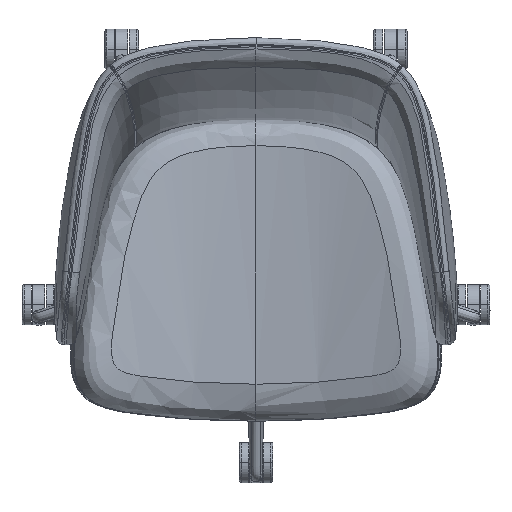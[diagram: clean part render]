
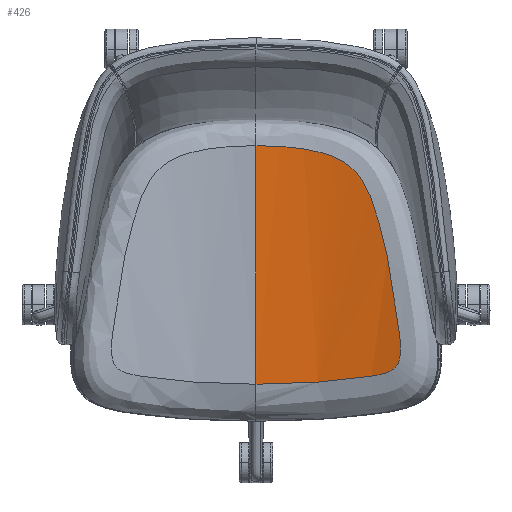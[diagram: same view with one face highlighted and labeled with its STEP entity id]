
A CAD part, top view. The second image highlights one B-rep face of the part: STEP entity #426.
In plain terms, the highlighted cylindrical face has radius 640 mm (diameter 1280 mm), a partial arc.
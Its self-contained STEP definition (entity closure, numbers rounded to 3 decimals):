
#426=ADVANCED_FACE('',(#711),#3782,.T.);
#711=FACE_OUTER_BOUND('',#997,.T.);
#997=EDGE_LOOP('',(#2093,#2094));
#2093=ORIENTED_EDGE('',*,*,#2734,.T.);
#2094=ORIENTED_EDGE('',*,*,#2733,.F.);
#2733=EDGE_CURVE('',#3730,#3731,#3360,.T.);
#2734=EDGE_CURVE('',#3730,#3731,#3361,.T.);
#3360=B_SPLINE_CURVE_WITH_KNOTS('',1,(#44155,#44156),.UNSPECIFIED.,.F.,
 .F.,(2,2),(85.522,440.522),.UNSPECIFIED.);
#3361=B_SPLINE_CURVE_WITH_KNOTS('',3,(#44157,#44158,#44159,#44160,#44161,
#44162,#44163,#44164,#44165,#44166,#44167,#44168,#44169,#44170,#44171,#44172,
#44173,#44174,#44175,#44176,#44177,#44178,#44179,#44180,#44181,#44182,#44183,
#44184,#44185,#44186,#44187,#44188,#44189,#44190,#44191,#44192,#44193,#44194,
#44195,#44196,#44197,#44198,#44199,#44200,#44201,#44202,#44203,#44204,#44205,
#44206,#44207,#44208,#44209,#44210,#44211,#44212,#44213,#44214,#44215,#44216,
#44217,#44218,#44219,#44220,#44221),.UNSPECIFIED.,.F.,.F.,(4,2,2,2,2,1,
1,1,2,2,2,2,2,2,1,1,1,2,2,2,2,2,2,1,1,1,2,2,1,1,1,2,2,2,1,1,1,2,2,4),(0.,
104.587,156.88,183.027,196.1,202.637,
209.173,215.71,229.003,238.918,248.832,
258.747,268.662,278.577,283.534,288.491,
293.449,302.826,317.162,345.832,403.172,
460.512,489.182,503.517,517.852,532.187,
552.207,569.385,578.515,586.562,594.609,
602.656,618.75,634.843,642.89,650.937,
658.984,679.714,708.491,766.045),
 .UNSPECIFIED.);
#3730=VERTEX_POINT('',#44149);
#3731=VERTEX_POINT('',#44150);
#3782=CYLINDRICAL_SURFACE('',#4135,640.);
#4135=AXIS2_PLACEMENT_3D('',#43249,#4243,$);
#4243=DIRECTION('',(0.,-1.,0.));
#43249=CARTESIAN_POINT('',(0.,-31.435,1100.));
#44149=CARTESIAN_POINT('',(0.,-205.851,460.));
#44150=CARTESIAN_POINT('',(0.,149.149,460.));
#44155=CARTESIAN_POINT('',(0.,-205.851,460.));
#44156=CARTESIAN_POINT('',(0.,149.149,460.));
#44157=CARTESIAN_POINT('',(0.,-205.851,460.));
#44158=CARTESIAN_POINT('',(32.595,-205.851,459.998));
#44159=CARTESIAN_POINT('',(65.191,-204.707,462.498));
#44160=CARTESIAN_POINT('',(113.393,-201.245,469.916));
#44161=CARTESIAN_POINT('',(129.348,-199.803,472.998));
#44162=CARTESIAN_POINT('',(152.995,-196.948,478.504));
#44163=CARTESIAN_POINT('',(160.828,-195.874,480.485));
#44164=CARTESIAN_POINT('',(172.477,-193.946,483.666));
#44165=CARTESIAN_POINT('',(176.325,-193.264,484.756));
#44166=CARTESIAN_POINT('',(182.126,-192.091,486.459));
#44167=CARTESIAN_POINT('',(185.728,-191.337,487.529));
#44168=CARTESIAN_POINT('',(192.209,-189.573,489.538));
#44169=CARTESIAN_POINT('',(195.735,-188.386,490.661));
#44170=CARTESIAN_POINT('',(199.266,-186.96,491.807));
#44171=CARTESIAN_POINT('',(202.779,-184.998,492.972));
#44172=CARTESIAN_POINT('',(204.261,-184.016,493.469));
#44173=CARTESIAN_POINT('',(206.947,-181.74,494.381));
#44174=CARTESIAN_POINT('',(208.168,-180.437,494.8));
#44175=CARTESIAN_POINT('',(210.246,-177.534,495.519));
#44176=CARTESIAN_POINT('',(211.107,-175.946,495.819));
#44177=CARTESIAN_POINT('',(212.491,-172.616,496.305));
#44178=CARTESIAN_POINT('',(213.019,-170.876,496.491));
#44179=CARTESIAN_POINT('',(213.834,-167.346,496.779));
#44180=CARTESIAN_POINT('',(214.124,-165.534,496.883));
#44181=CARTESIAN_POINT('',(214.453,-162.865,496.999));
#44182=CARTESIAN_POINT('',(214.64,-160.854,497.066));
#44183=CARTESIAN_POINT('',(214.8,-158.871,497.123));
#44184=CARTESIAN_POINT('',(215.033,-151.876,497.206));
#44185=CARTESIAN_POINT('',(214.909,-147.514,497.162));
#44186=CARTESIAN_POINT('',(214.619,-139.821,497.058));
#44187=CARTESIAN_POINT('',(214.314,-135.233,496.95));
#44188=CARTESIAN_POINT('',(213.152,-121.424,496.538));
#44189=CARTESIAN_POINT('',(212.076,-112.257,496.158));
#44190=CARTESIAN_POINT('',(208.37,-84.822,494.865));
#44191=CARTESIAN_POINT('',(205.301,-66.627,493.811));
#44192=CARTESIAN_POINT('',(198.557,-30.368,491.57));
#44193=CARTESIAN_POINT('',(194.856,-12.302,490.369));
#44194=CARTESIAN_POINT('',(188.523,14.609,488.392));
#44195=CARTESIAN_POINT('',(186.28,23.534,487.704));
#44196=CARTESIAN_POINT('',(182.602,36.878,486.601));
#44197=CARTESIAN_POINT('',(180.108,45.581,485.86));
#44198=CARTESIAN_POINT('',(175.69,59.26,484.582));
#44199=CARTESIAN_POINT('',(171.082,71.736,483.283));
#44200=CARTESIAN_POINT('',(167.133,80.889,482.203));
#44201=CARTESIAN_POINT('',(162.426,90.325,480.95));
#44202=CARTESIAN_POINT('',(160.048,94.606,480.329));
#44203=CARTESIAN_POINT('',(155.992,100.878,479.3));
#44204=CARTESIAN_POINT('',(153.227,104.855,478.607));
#44205=CARTESIAN_POINT('',(148.585,110.435,477.481));
#44206=CARTESIAN_POINT('',(144.078,115.015,476.422));
#44207=CARTESIAN_POINT('',(140.78,117.901,475.673));
#44208=CARTESIAN_POINT('',(135.703,121.987,474.543));
#44209=CARTESIAN_POINT('',(132.099,124.439,473.77));
#44210=CARTESIAN_POINT('',(124.593,128.815,472.233));
#44211=CARTESIAN_POINT('',(120.672,130.726,471.466));
#44212=CARTESIAN_POINT('',(114.663,133.23,470.352));
#44213=CARTESIAN_POINT('',(110.528,134.808,469.607));
#44214=CARTESIAN_POINT('',(104.58,136.779,468.59));
#44215=CARTESIAN_POINT('',(93.571,139.98,466.83));
#44216=CARTESIAN_POINT('',(85.134,141.89,465.658));
#44217=CARTESIAN_POINT('',(70.3,144.746,463.813));
#44218=CARTESIAN_POINT('',(61.607,146.002,462.912));
#44219=CARTESIAN_POINT('',(35.337,148.719,460.734));
#44220=CARTESIAN_POINT('',(17.656,149.155,459.999));
#44221=CARTESIAN_POINT('',(0.,149.149,460.));
